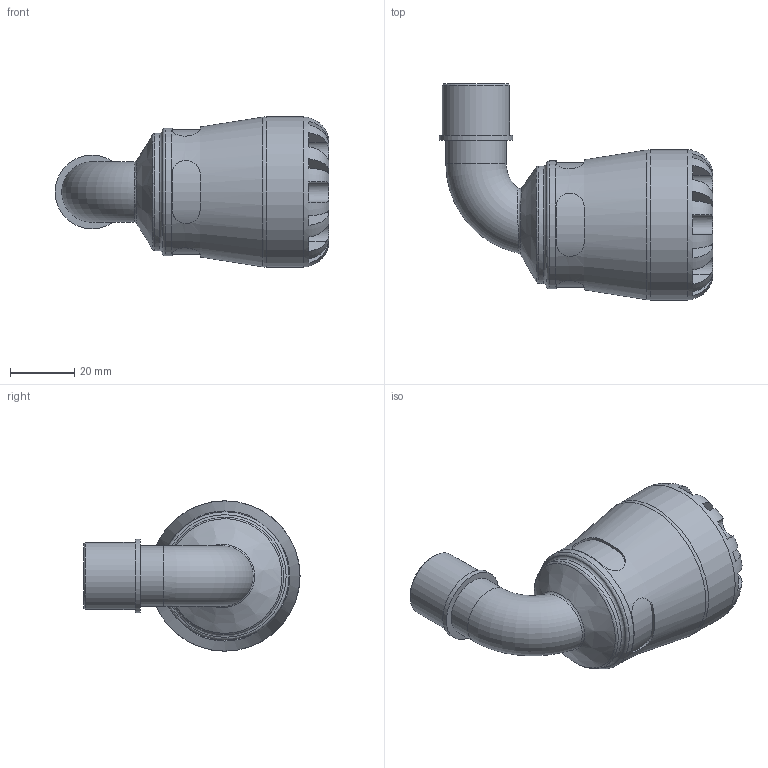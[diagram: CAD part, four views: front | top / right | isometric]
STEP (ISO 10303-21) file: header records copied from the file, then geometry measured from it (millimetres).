
FILE_DESCRIPTION(/* description */ ('PLASSON 90° ELBOW WITH THREADED MALE OFFTAKE 25X1/2" SERIES 1'),/* implementation_level */ '2;1');
FILE_NAME(/* name */ 'C:\Dropbox\KIMPROJECTS-Inventor\99-16-3568-Processing\S1\27.01.19\1085\108500025005_198500025005.ipt.stp',/* time_stamp */ '2019-01-27T09:13:30+02:00',/* author */ ('KIM'),/* organization */ (''),/* preprocessor_version */ 'ST-DEVELOPER v15.6',/* originating_system */ 'Autodesk Inventor 2015',/* authorisation */ '');
FILE_SCHEMA (('AUTOMOTIVE_DESIGN { 1 0 10303 214 3 1 1 }'));
Length unit declared in the file: millimetre
Products named in the file (1): 108500025005_198500025005
Bounding box: 85.53 x 67.5 x 47 mm (x, y, z)
Volume: 62553.5 mm3; surface area: 20883.6 mm2
Topology: 1 solids, 1 shells, 110 faces, 269 edges, 167 vertices
Faces by surface type: plane 61, cylinder 37, torus 7, bspline 3, cone 2
Full cylindrical faces by diameter (mm): 14.668 x2, 18.86 x1, 20.955 x1, 23.05 x1, 25 x1, 36.66 x1, 39.95 x1, 47 x1
Entity records: 4298 total; most frequent: CARTESIAN_POINT 1758, ORIENTED_EDGE 488, DIRECTION 487, EDGE_CURVE 244, AXIS2_PLACEMENT_3D 203, VERTEX_POINT 161, EDGE_LOOP 137, STYLED_ITEM 111
